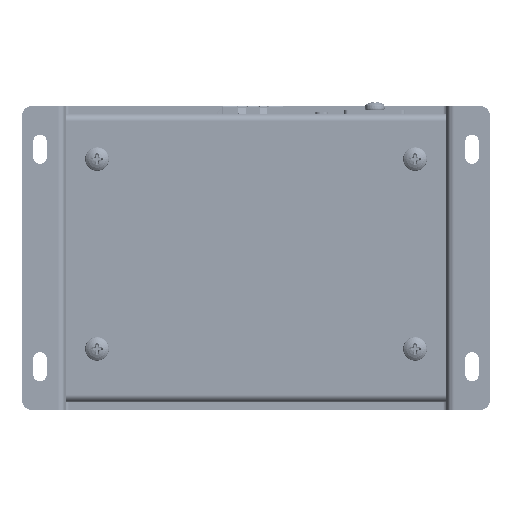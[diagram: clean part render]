
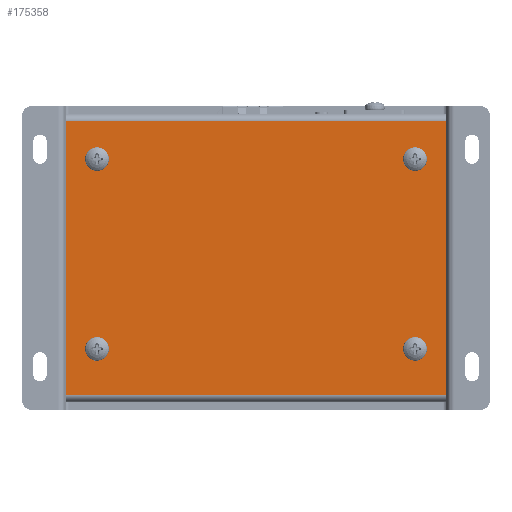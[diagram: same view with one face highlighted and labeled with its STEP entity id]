
A CAD part, front view. The second image highlights one B-rep face of the part: STEP entity #175358.
In plain terms, the highlighted planar face has unit normal (0, -1, 0).
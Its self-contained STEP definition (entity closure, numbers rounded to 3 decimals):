
#7835 = VERTEX_POINT ( 'NONE', #125389 ) ;
#13864 = LINE ( 'NONE', #17058, #124802 ) ;
#17058 = CARTESIAN_POINT ( 'NONE',  ( 48.225, 8.231, 10.569 ) ) ;
#22892 = DIRECTION ( 'NONE',  ( -1., 0., 0. ) ) ;
#23212 = AXIS2_PLACEMENT_3D ( 'NONE', #261079, #163945, #57228 ) ;
#24684 = DIRECTION ( 'NONE',  ( 0., -1., 0. ) ) ;
#25860 = EDGE_LOOP ( 'NONE', ( #249110 ) ) ;
#32350 = ORIENTED_EDGE ( 'NONE', *, *, #131643, .F. ) ;
#34165 = EDGE_CURVE ( 'NONE', #200684, #200684, #148673, .T. ) ;
#38242 = LINE ( 'NONE', #263541, #60843 ) ;
#42588 = VERTEX_POINT ( 'NONE', #212014 ) ;
#47591 = LINE ( 'NONE', #147892, #111256 ) ;
#47747 = DIRECTION ( 'NONE',  ( 0., 0., -1. ) ) ;
#48221 = CARTESIAN_POINT ( 'NONE',  ( -47.775, 8.231, 10.569 ) ) ;
#51585 = CARTESIAN_POINT ( 'NONE',  ( 48.225, 8.231, -58.609 ) ) ;
#57228 = DIRECTION ( 'NONE',  ( 0., 0., -1. ) ) ;
#60010 = CARTESIAN_POINT ( 'NONE',  ( 40.425, 8.231, -47.02 ) ) ;
#60843 = VECTOR ( 'NONE', #67786, 1000. ) ;
#61084 = ORIENTED_EDGE ( 'NONE', *, *, #67345, .F. ) ;
#65580 = ORIENTED_EDGE ( 'NONE', *, *, #254628, .T. ) ;
#67345 = EDGE_CURVE ( 'NONE', #79034, #79034, #306801, .T. ) ;
#67786 = DIRECTION ( 'NONE',  ( 0., 0., -1. ) ) ;
#68058 = CARTESIAN_POINT ( 'NONE',  ( -47.775, 8.231, -58.609 ) ) ;
#73389 = EDGE_LOOP ( 'NONE', ( #223558, #244189, #292903, #65580 ) ) ;
#75777 = CARTESIAN_POINT ( 'NONE',  ( -39.975, 8.231, -48.72 ) ) ;
#76591 = FACE_BOUND ( 'NONE', #25860, .T. ) ;
#79034 = VERTEX_POINT ( 'NONE', #258181 ) ;
#79808 = CARTESIAN_POINT ( 'NONE',  ( 48.225, 8.231, 11.48 ) ) ;
#88627 = EDGE_LOOP ( 'NONE', ( #61084 ) ) ;
#94746 = FACE_OUTER_BOUND ( 'NONE', #73389, .T. ) ;
#95460 = CARTESIAN_POINT ( 'NONE',  ( -39.975, 8.231, -47.02 ) ) ;
#105498 = EDGE_LOOP ( 'NONE', ( #198373 ) ) ;
#108869 = DIRECTION ( 'NONE',  ( 0., 0., -1. ) ) ;
#111256 = VECTOR ( 'NONE', #22892, 1000. ) ;
#117390 = DIRECTION ( 'NONE',  ( -1., 0., 0. ) ) ;
#124802 = VECTOR ( 'NONE', #117390, 1000. ) ;
#125389 = CARTESIAN_POINT ( 'NONE',  ( 48.225, 8.231, 10.569 ) ) ;
#125880 = FACE_BOUND ( 'NONE', #258003, .T. ) ;
#131643 = EDGE_CURVE ( 'NONE', #205540, #205540, #211424, .T. ) ;
#132611 = AXIS2_PLACEMENT_3D ( 'NONE', #60010, #235914, #209595 ) ;
#133983 = DIRECTION ( 'NONE',  ( 0., 1., 0. ) ) ;
#147892 = CARTESIAN_POINT ( 'NONE',  ( 48.225, 8.231, -58.609 ) ) ;
#148673 = CIRCLE ( 'NONE', #216928, 1.7 ) ;
#163945 = DIRECTION ( 'NONE',  ( 0., -1., 0. ) ) ;
#167951 = EDGE_CURVE ( 'NONE', #7835, #283001, #38242, .T. ) ;
#175358 = ADVANCED_FACE ( 'NONE', ( #94746, #76591, #195015, #250856, #125880 ), #204731, .F. ) ;
#178430 = DIRECTION ( 'NONE',  ( 0., 0., 1. ) ) ;
#184443 = DIRECTION ( 'NONE',  ( 0., -1., 0. ) ) ;
#186078 = CARTESIAN_POINT ( 'NONE',  ( 40.425, 8.231, 0.98 ) ) ;
#195015 = FACE_BOUND ( 'NONE', #105498, .T. ) ;
#196503 = EDGE_CURVE ( 'NONE', #293268, #226571, #241520, .T. ) ;
#198373 = ORIENTED_EDGE ( 'NONE', *, *, #305679, .F. ) ;
#200684 = VERTEX_POINT ( 'NONE', #75777 ) ;
#204731 = PLANE ( 'NONE',  #212584 ) ;
#205540 = VERTEX_POINT ( 'NONE', #307497 ) ;
#209595 = DIRECTION ( 'NONE',  ( 0., 0., -1. ) ) ;
#211424 = CIRCLE ( 'NONE', #132611, 1.7 ) ;
#212014 = CARTESIAN_POINT ( 'NONE',  ( 40.425, 8.231, -0.72 ) ) ;
#212584 = AXIS2_PLACEMENT_3D ( 'NONE', #79808, #133983, #178430 ) ;
#213832 = VECTOR ( 'NONE', #246418, 1000. ) ;
#216928 = AXIS2_PLACEMENT_3D ( 'NONE', #95460, #24684, #47747 ) ;
#223558 = ORIENTED_EDGE ( 'NONE', *, *, #196503, .T. ) ;
#226571 = VERTEX_POINT ( 'NONE', #68058 ) ;
#235914 = DIRECTION ( 'NONE',  ( 0., -1., 0. ) ) ;
#241520 = LINE ( 'NONE', #266236, #213832 ) ;
#244189 = ORIENTED_EDGE ( 'NONE', *, *, #306924, .F. ) ;
#246418 = DIRECTION ( 'NONE',  ( 0., 0., -1. ) ) ;
#249110 = ORIENTED_EDGE ( 'NONE', *, *, #34165, .F. ) ;
#250856 = FACE_BOUND ( 'NONE', #88627, .T. ) ;
#254628 = EDGE_CURVE ( 'NONE', #7835, #293268, #13864, .T. ) ;
#258003 = EDGE_LOOP ( 'NONE', ( #32350 ) ) ;
#258181 = CARTESIAN_POINT ( 'NONE',  ( -39.975, 8.231, -0.72 ) ) ;
#261079 = CARTESIAN_POINT ( 'NONE',  ( -39.975, 8.231, 0.98 ) ) ;
#263541 = CARTESIAN_POINT ( 'NONE',  ( 48.225, 8.231, 11.48 ) ) ;
#266236 = CARTESIAN_POINT ( 'NONE',  ( -47.775, 8.231, 11.48 ) ) ;
#283001 = VERTEX_POINT ( 'NONE', #51585 ) ;
#292903 = ORIENTED_EDGE ( 'NONE', *, *, #167951, .F. ) ;
#293268 = VERTEX_POINT ( 'NONE', #48221 ) ;
#294583 = AXIS2_PLACEMENT_3D ( 'NONE', #186078, #184443, #108869 ) ;
#305679 = EDGE_CURVE ( 'NONE', #42588, #42588, #320640, .T. ) ;
#306801 = CIRCLE ( 'NONE', #23212, 1.7 ) ;
#306924 = EDGE_CURVE ( 'NONE', #283001, #226571, #47591, .T. ) ;
#307497 = CARTESIAN_POINT ( 'NONE',  ( 40.425, 8.231, -48.72 ) ) ;
#320640 = CIRCLE ( 'NONE', #294583, 1.7 ) ;
